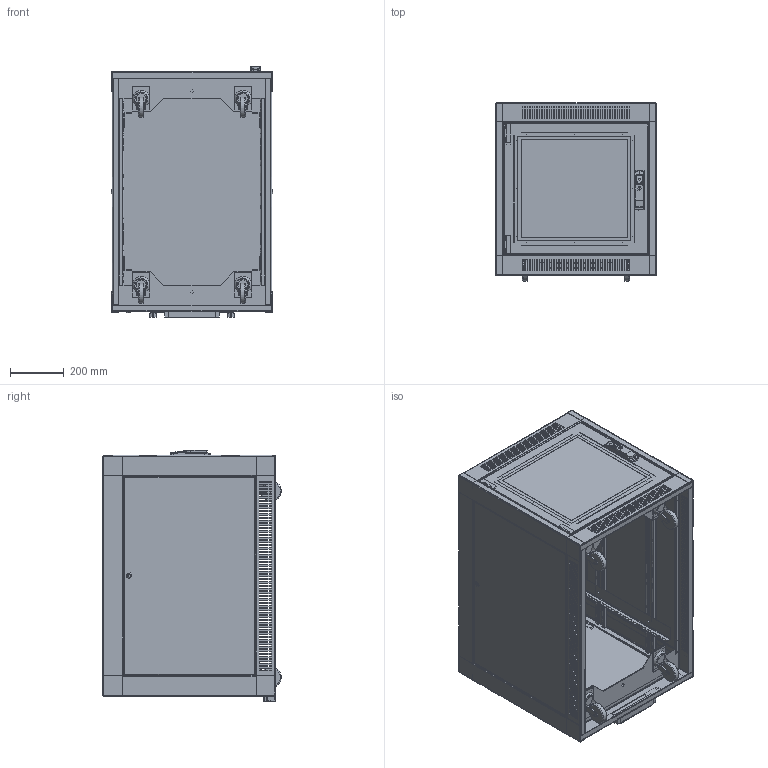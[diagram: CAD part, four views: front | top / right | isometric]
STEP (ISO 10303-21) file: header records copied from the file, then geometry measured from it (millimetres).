
FILE_DESCRIPTION((''),'2;1');
FILE_NAME('D:\a00506\networking_assy_soho_600x900.stp', '2004-05-07T15:58:37',('Rick Hagglund'),('Hoffman Enclosures Inc.'), 'I-DEAS Master Series 9','UNIX','Yes');
FILE_SCHEMA(('AUTOMOTIVE_DESIGN { 1 0 10303 214 0 1 1 1 }'));
Length unit declared in the file: inch
Products named in the file (32): networking_assy_soho_600x900; 87565359; 87565361; 87565009; 87565369; 87565365; 87565367; 87565379; 87565383; networking_door_hinge; hinge_pin; latch_assy_qtr_turn; emka; 1022_u60; 87565375; 87565387; 87565377; horizontal_retainer; handle_assy; insert_keylock_small_flush; 11458171; handle; 87550977; 87416181; 87565371; 87565537; caster wheel; caster base; 45129001
Assembly tree (59 placements, depth 4):
  networking_assy_soho_600x900
    87565359
      87565361
      87565009  x4
      87565369  x4
      87565365
    87565367  x2
    87565379
      87565383
      networking_door_hinge  x2
      hinge_pin  x2
      latch_assy_qtr_turn
        emka
        1022_u60
    87565375
      87565387
      87565377
      hinge_pin  x2
      networking_door_hinge  x2
      horizontal_retainer  x4
      handle_assy
        insert_keylock_small_flush
        11458171
        handle
    87550977
    87416181
    87565371  x4
    latch_assy_qtr_turn  x2
      emka
      1022_u60
    87565537
      caster wheel
      caster base
    87565537
      caster wheel
      caster base
    87565537
      caster wheel
      caster base
    87565537
      caster wheel
      caster base
    45129001  x2
Bounding box: 602.72 x 665.54 x 938.13 mm (x, y, z)
Volume: 7197951.1 mm3; surface area: 7625749.4 mm2
Topology: 53 solids, 53 shells, 3474 faces, 9131 edges, 6037 vertices
Faces by surface type: bspline 3474
Entity records: 80063 total; most frequent: CARTESIAN_POINT 39513, ORIENTED_EDGE 12662, EDGE_CURVE 6331, VERTEX_POINT 4044, EDGE_LOOP 3095, QUASI_UNIFORM_CURVE 2893, FACE_OUTER_BOUND 2350, ADVANCED_FACE 2350
